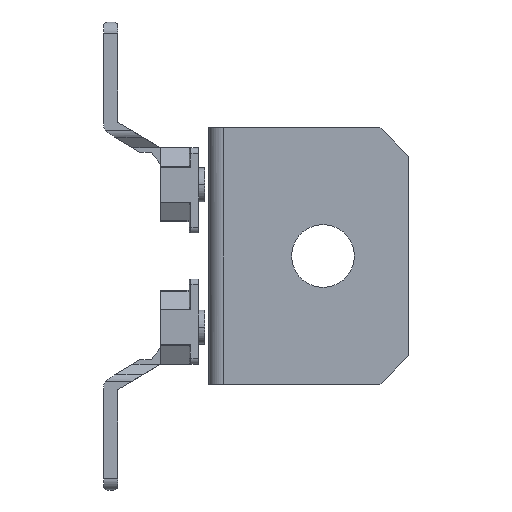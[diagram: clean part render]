
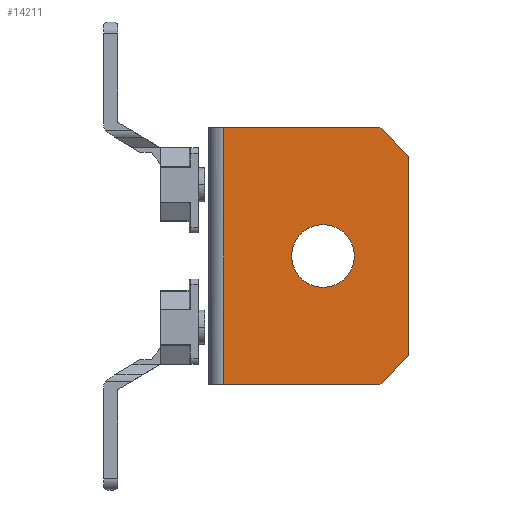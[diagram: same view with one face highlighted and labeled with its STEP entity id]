
A CAD part, front view. The second image highlights one B-rep face of the part: STEP entity #14211.
In plain terms, the highlighted planar face has unit normal (0, -1, 0).
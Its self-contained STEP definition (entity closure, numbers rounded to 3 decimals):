
#13456=CARTESIAN_POINT(' ',(20.,0.,5.5));
#13457=VERTEX_POINT(' ',#13456);
#13471=CARTESIAN_POINT(' ',(20.,0.,0.));
#13476=DIRECTION(' ',(0.,-1.,0.));
#13481=DIRECTION(' ',(0.,0.,1.));
#13486=AXIS2_PLACEMENT_3D(' ',#13471,#13476,#13481);
#13491=CIRCLE('',#13486,5.5);
#13496=CARTESIAN_POINT(' ',(20.,0.,-5.5));
#13497=VERTEX_POINT(' ',#13496);
#13501=EDGE_CURVE(' ',#13457,#13497,#13491,.T.);
#13896=CARTESIAN_POINT(' ',(20.,0.,0.));
#13901=DIRECTION(' ',(-0.,-1.,0.));
#13906=DIRECTION(' ',(0.,0.,-1.));
#13911=AXIS2_PLACEMENT_3D(' ',#13896,#13901,#13906);
#13916=CIRCLE('',#13911,5.5);
#13921=EDGE_CURVE(' ',#13497,#13457,#13916,.T.);
#13946=DIRECTION(' ',(-0.,-1.,-0.));
#13951=CARTESIAN_POINT(' ',(2.6,0.,-22.5));
#13956=DIRECTION(' ',(1.,0.,-0.));
#13961=AXIS2_PLACEMENT_3D(' ',#13951,#13946,#13956);
#13966=PLANE('NONE',#13961);
#13971=CARTESIAN_POINT(' ',(35.,0.,17.5));
#13976=DIRECTION(' ',(0.,0.,-1.));
#13981=VECTOR(' ',#13976,1.);
#13986=LINE('',#13971,#13981);
#13991=CARTESIAN_POINT(' ',(35.,0.,17.5));
#13992=VERTEX_POINT(' ',#13991);
#13996=CARTESIAN_POINT(' ',(35.,0.,-17.5));
#13997=VERTEX_POINT(' ',#13996);
#14001=EDGE_CURVE(' ',#13992,#13997,#13986,.T.);
#14006=ORIENTED_EDGE(' ',*,*,#14001,.F.);
#14011=CARTESIAN_POINT(' ',(35.,0.,17.5));
#14016=DIRECTION(' ',(-0.707,0.,0.707));
#14021=VECTOR(' ',#14016,1.);
#14026=LINE('',#14011,#14021);
#14031=CARTESIAN_POINT(' ',(30.,0.,22.5));
#14032=VERTEX_POINT(' ',#14031);
#14036=EDGE_CURVE(' ',#13992,#14032,#14026,.T.);
#14041=ORIENTED_EDGE(' ',*,*,#14036,.T.);
#14046=CARTESIAN_POINT(' ',(2.6,0.,22.5));
#14051=DIRECTION(' ',(1.,0.,0.));
#14056=VECTOR(' ',#14051,1.);
#14061=LINE('',#14046,#14056);
#14066=CARTESIAN_POINT(' ',(2.6,0.,22.5));
#14067=VERTEX_POINT(' ',#14066);
#14071=EDGE_CURVE(' ',#14067,#14032,#14061,.T.);
#14076=ORIENTED_EDGE(' ',*,*,#14071,.F.);
#14081=CARTESIAN_POINT(' ',(2.6,0.,22.5));
#14086=DIRECTION(' ',(0.,0.,-1.));
#14091=VECTOR(' ',#14086,1.);
#14096=LINE('',#14081,#14091);
#14101=CARTESIAN_POINT(' ',(2.6,0.,-22.5));
#14102=VERTEX_POINT(' ',#14101);
#14106=EDGE_CURVE(' ',#14067,#14102,#14096,.T.);
#14111=ORIENTED_EDGE(' ',*,*,#14106,.T.);
#14116=CARTESIAN_POINT(' ',(2.6,0.,-22.5));
#14121=DIRECTION(' ',(1.,0.,0.));
#14126=VECTOR(' ',#14121,1.);
#14131=LINE('',#14116,#14126);
#14136=CARTESIAN_POINT(' ',(30.,0.,-22.5));
#14137=VERTEX_POINT(' ',#14136);
#14141=EDGE_CURVE(' ',#14102,#14137,#14131,.T.);
#14146=ORIENTED_EDGE(' ',*,*,#14141,.T.);
#14151=CARTESIAN_POINT(' ',(30.,0.,-22.5));
#14156=DIRECTION(' ',(0.707,0.,0.707));
#14161=VECTOR(' ',#14156,1.);
#14166=LINE('',#14151,#14161);
#14171=EDGE_CURVE(' ',#14137,#13997,#14166,.T.);
#14176=ORIENTED_EDGE(' ',*,*,#14171,.T.);
#14181=EDGE_LOOP(' ',(#14006,#14041,#14076,#14111,#14146,#14176));
#14186=FACE_OUTER_BOUND(' ',#14181,.T.);
#14191=ORIENTED_EDGE(' ',*,*,#13921,.F.);
#14196=ORIENTED_EDGE(' ',*,*,#13501,.F.);
#14201=EDGE_LOOP(' ',(#14191,#14196));
#14206=FACE_BOUND(' ',#14201,.T.);
#14211=ADVANCED_FACE('NONE',(#14186,#14206),#13966,.T.);
